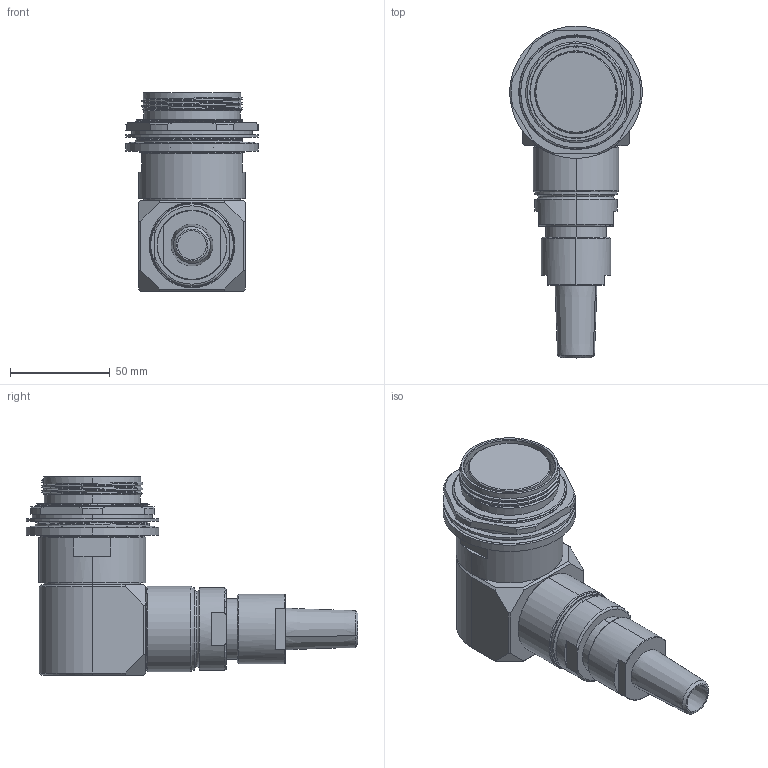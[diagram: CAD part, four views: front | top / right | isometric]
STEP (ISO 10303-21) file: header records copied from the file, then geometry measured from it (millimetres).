
FILE_DESCRIPTION (( 'STEP AP214' ), '1' );
FILE_NAME ('QLINK90-RJTX-31XX-SXXX.STEP', '2025-10-23T14:25:33', ( '' ), ( '' ), 'SwSTEP 2.0', 'SolidWorks 2024', '' );
FILE_SCHEMA (( 'AUTOMOTIVE_DESIGN' ));
Length unit declared in the file: millimetre
Products named in the file (1): QLINK90-RJTX-31XX-SXXX
Bounding box: 66.42 x 166.37 x 99.31 mm (x, y, z)
Volume: 320850.6 mm3; surface area: 55541.1 mm2
Topology: 2 solids, 4 shells, 282 faces, 705 edges, 454 vertices
Faces by surface type: cylinder 87, plane 74, cone 59, bspline 39, torus 23
Entity records: 19591 total; most frequent: CARTESIAN_POINT 13274, ORIENTED_EDGE 1410, DIRECTION 1222, EDGE_CURVE 705, AXIS2_PLACEMENT_3D 493, VERTEX_POINT 454, EDGE_LOOP 313, ADVANCED_FACE 282
